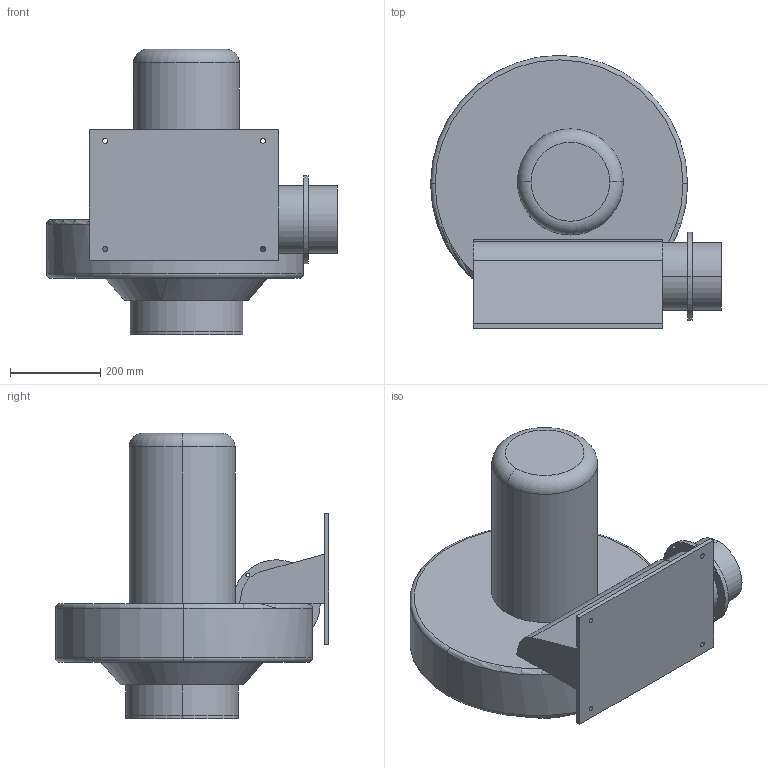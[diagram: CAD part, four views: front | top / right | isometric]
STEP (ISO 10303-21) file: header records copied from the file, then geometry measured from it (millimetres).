
FILE_DESCRIPTION (( 'STEP AP203' ), '1' );
FILE_NAME ('CX-3700.STEP', '2019-04-25T09:04:56', ( 'User' ), ( 'www.dadighost.com' ), 'SwSTEP 2.0', 'SolidWorks 2014', '' );
FILE_SCHEMA (( 'CONFIG_CONTROL_DESIGN' ));
Length unit declared in the file: millimetre
Products named in the file (1): CX-3700
Bounding box: 645.03 x 606.1 x 633 mm (x, y, z)
Volume: 65068278.2 mm3; surface area: 1955102.5 mm2
Topology: 4 solids, 4 shells, 66 faces, 156 edges, 102 vertices
Faces by surface type: cylinder 34, plane 23, torus 7, bspline 2
Entity records: 2297 total; most frequent: CARTESIAN_POINT 608, DIRECTION 360, ORIENTED_EDGE 312, EDGE_CURVE 156, AXIS2_PLACEMENT_3D 150, VERTEX_POINT 102, EDGE_LOOP 88, CIRCLE 85
